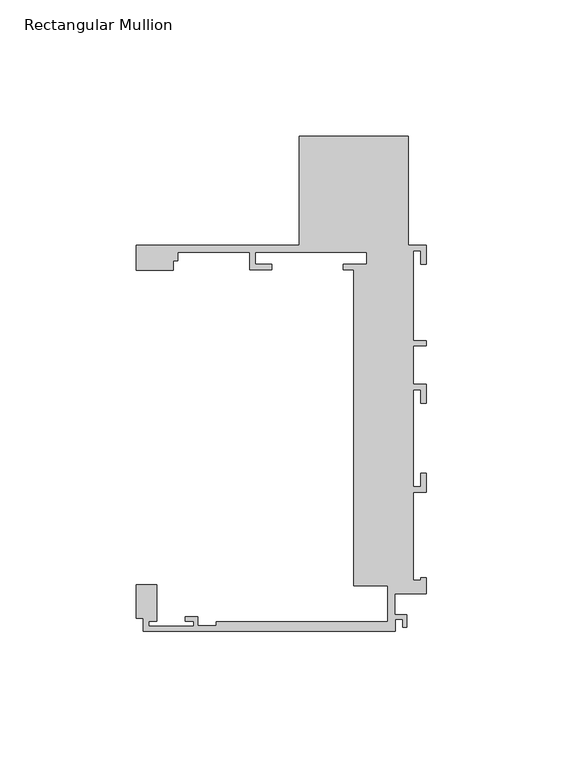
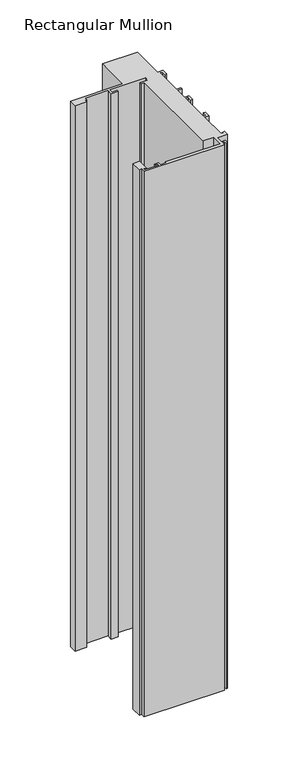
"""IFC4 building model written with IfcOpenShell, lengths in millimetres: member geometry, Rectangular Mullion : Danpal_K12_Middle-Mullion_B2."""

import ifcopenshell
import ifcopenshell.guid

model = None  # the IFC model being written
_history = None  # IfcOwnerHistory: only IFC2X3 demands one
_inside = {}  # id of a spatial element -> (the spatial element, [elements in it])
_under = {}  # id of a project, library or spatial element -> (it, [spatial elements below it])
_declared = {}  # id of a project -> (the project, [libraries it declares])
_typed = {}  # id of a type object -> (the type object, [elements of that type])
_made_of = {}  # id of a material, layer set ... -> (it, [elements and type objects made of it])


def new_model(schema):
    """Start an empty IFC model of exactly this schema.

    Asked for "IFC4X3", IfcOpenShell would pick the latest addendum, in which some entities
    have other attributes; the version numbers below select the first issue.
    IFC2X3 requires an IfcOwnerHistory on every rooted entity: one is made here for all.
    """
    global model, _history
    if schema == "IFC4X3":
        model = ifcopenshell.file(schema_version=(4, 3, 0, 0))
    else:
        model = ifcopenshell.file(schema=schema)
    _inside.clear()
    _under.clear()
    _declared.clear()
    _typed.clear()
    _made_of.clear()
    _history = None
    if model.schema == "IFC2X3":
        org = make("IfcOrganization", Name="unknown")
        user = make(
            "IfcPersonAndOrganization",
            ThePerson=make("IfcPerson", FamilyName="unknown"),
            TheOrganization=org,
        )
        app = make(
            "IfcApplication",
            ApplicationDeveloper=org,
            Version="unknown",
            ApplicationFullName="unknown",
            ApplicationIdentifier="unknown",
        )
        _history = make(
            "IfcOwnerHistory",
            OwningUser=user,
            OwningApplication=app,
            ChangeAction="ADDED",
            CreationDate=0,
        )
    return model


def make(cls, **values):
    """One entity of the class cls with the attributes given. An attribute that is None is left unset."""
    return model.create_entity(
        cls, **{name: value for name, value in values.items() if value is not None}
    )


def rooted(cls, **values):
    """An entity with a GlobalId (a new one), such as an element, a storey or a relation."""
    return make(cls, GlobalId=ifcopenshell.guid.new(), OwnerHistory=_history, **values)


def si_unit(unit_type, name, prefix=None):
    """IfcSIUnit, for example si_unit("LENGTHUNIT", "METRE", prefix="MILLI")."""
    return make("IfcSIUnit", UnitType=unit_type, Prefix=prefix, Name=name)


def assignment(units):
    """IfcUnitAssignment: the units of a project."""
    return None if units is None else make("IfcUnitAssignment", Units=units)


def point(xyz):
    """IfcCartesianPoint."""
    return None if xyz is None else make("IfcCartesianPoint", Coordinates=xyz)


def direction(xyz):
    """IfcDirection."""
    return None if xyz is None else make("IfcDirection", DirectionRatios=xyz)


def frame(location, z_axis=None, x_axis=None):
    """IfcAxis2Placement3D, a coordinate frame: its origin and axes. An axis left out is left unset."""
    return make(
        "IfcAxis2Placement3D",
        Location=point(location),
        Axis=direction(z_axis),
        RefDirection=direction(x_axis),
    )


def origin():
    """The frame at (0, 0, 0) with its axes left unset."""
    return frame((0.0, 0.0, 0.0))


def place(relative_to, where):
    """IfcLocalPlacement: puts the frame where relative to a parent placement (None: the world)."""
    return make(
        "IfcLocalPlacement", PlacementRelTo=relative_to, RelativePlacement=where
    )


def context(
    kind, dimensions, precision=None, world=None, true_north=None, identifier=None
):
    """IfcGeometricRepresentationContext, for example the 3D "Model" context."""
    return make(
        "IfcGeometricRepresentationContext",
        ContextIdentifier=identifier,
        ContextType=kind,
        CoordinateSpaceDimension=dimensions,
        Precision=precision,
        WorldCoordinateSystem=world,
        TrueNorth=true_north,
    )


def project(units=None, contexts=None):
    """IfcProject with its units and contexts."""
    return rooted(
        "IfcProject",
        Name="project",
        RepresentationContexts=contexts,
        UnitsInContext=assignment(units),
    )


def spatial(cls, under=None, at=None, **own):
    """A site, building, storey or space (cls), placed at a placement, below another one or the project."""
    s = rooted(cls, ObjectPlacement=at, **own)
    if under is not None:
        _under.setdefault(under.id(), (under, []))[1].append(s)
    return s


def polyline(points):
    """IfcPolyline through the points."""
    return make("IfcPolyline", Points=[point(p) for p in points])


def outline(outer, holes=None, kind="AREA"):
    """IfcArbitraryClosedProfileDef: a profile drawn as a closed curve; with holes, ...WithVoids."""
    if holes is None:
        return make("IfcArbitraryClosedProfileDef", ProfileType=kind, OuterCurve=outer)
    return make(
        "IfcArbitraryProfileDefWithVoids",
        ProfileType=kind,
        OuterCurve=outer,
        InnerCurves=holes,
    )


def extrude(swept, where, along, depth):
    """IfcExtrudedAreaSolid: the profile swept, set in the frame where, extruded along a direction by depth."""
    return make(
        "IfcExtrudedAreaSolid",
        SweptArea=swept,
        Position=where,
        ExtrudedDirection=direction(along),
        Depth=depth,
    )


def shape(context_of_items, identifier, shape_type, items):
    """IfcShapeRepresentation: the items that make up one representation, for example the "Body"."""
    return make(
        "IfcShapeRepresentation",
        ContextOfItems=context_of_items,
        RepresentationIdentifier=identifier,
        RepresentationType=shape_type,
        Items=items,
    )


def source(mapping_origin, context_of_items, identifier, shape_type, items):
    """IfcRepresentationMap: a shape defined once, which mapped items show again and again."""
    return make(
        "IfcRepresentationMap",
        MappingOrigin=mapping_origin,
        MappedRepresentation=shape(context_of_items, identifier, shape_type, items),
    )


def transform(
    local_origin,
    x_axis=None,
    y_axis=None,
    z_axis=None,
    scale=None,
    scale2=None,
    scale3=None,
    uniform=True,
):
    """IfcCartesianTransformationOperator3D, or its non-uniform kind. x_axis, y_axis, z_axis: its Axis1, 2, 3."""
    if uniform:
        return make(
            "IfcCartesianTransformationOperator3D",
            Axis1=direction(x_axis),
            Axis2=direction(y_axis),
            LocalOrigin=point(local_origin),
            Scale=scale,
            Axis3=direction(z_axis),
        )
    return make(
        "IfcCartesianTransformationOperator3DnonUniform",
        Axis1=direction(x_axis),
        Axis2=direction(y_axis),
        LocalOrigin=point(local_origin),
        Scale=scale,
        Axis3=direction(z_axis),
        Scale2=scale2,
        Scale3=scale3,
    )


def mapped(mapping_source, mapping_target):
    """IfcMappedItem: shows the shape of a source again, moved by a transform."""
    return make(
        "IfcMappedItem", MappingSource=mapping_source, MappingTarget=mapping_target
    )


def made_of(thing, what):
    """Note that an element or type object is made of a material, layer set ...; save() writes the relation."""
    if what is not None:
        _made_of.setdefault(what.id(), (what, []))[1].append(thing)
    return thing


def element(
    cls,
    number,
    at=None,
    inside=None,
    cuts=None,
    type_object=None,
    material=None,
    context=None,
    identifier="Body",
    shape_type=None,
    held_by="IfcProductDefinitionShape",
    body=None,
    shapes=None,
    **own,
):
    """One element of the class cls, such as IfcWall. Its Tag is "e" and its number.

    at: its placement. inside: the storey or other place that contains it. cuts: it is an
    opening in that element (IfcRelVoidsElement). A single representation is given by context,
    identifier, shape_type and body (its items); several are given by shapes. held_by: the class
    of the entity that holds the representations. save() writes the other relations.
    """
    e = rooted(cls, Tag="e%d" % number, ObjectPlacement=at, **own)
    if body is not None:
        shapes = [shape(context, identifier, shape_type, body)]
    if shapes is not None:
        e.Representation = make(held_by, Representations=shapes)
    if inside is not None:
        _inside.setdefault(inside.id(), (inside, []))[1].append(e)
    if cuts is not None:
        rooted(
            "IfcRelVoidsElement", RelatingBuildingElement=cuts, RelatedOpeningElement=e
        )
    if type_object is not None:
        _typed.setdefault(type_object.id(), (type_object, []))[1].append(e)
    return made_of(e, material)


def aggregate(whole, parts):
    """IfcRelAggregates: a whole, such as a stair, and the parts it consists of."""
    return rooted("IfcRelAggregates", RelatingObject=whole, RelatedObjects=parts)


def save(model, path):
    """Write the relations noted so far, then the file.

    IfcRelAggregates (storeys below a building ...), IfcRelContainedInSpatialStructure (elements
    in a storey), IfcRelDefinesByType, IfcRelAssociatesMaterial and IfcRelDeclares: one each for
    every whole, place, type object, material and project.
    """
    for whole, parts in _under.values():
        aggregate(whole, parts)
    for where, things in _inside.values():
        rooted(
            "IfcRelContainedInSpatialStructure",
            RelatedElements=things,
            RelatingStructure=where,
        )
    for kind, things in _typed.values():
        rooted("IfcRelDefinesByType", RelatedObjects=things, RelatingType=kind)
    for what, things in _made_of.values():
        rooted("IfcRelAssociatesMaterial", RelatedObjects=things, RelatingMaterial=what)
    for by, libraries in _declared.values():
        rooted("IfcRelDeclares", RelatingContext=by, RelatedDefinitions=libraries)
    model.write(path)


def rectangular_mullion_542187d4(model_context):
    return source(origin(), model_context, "Body", "SweptSolid", [
        extrude(outline(polyline([(24.173135, 117.8676658), (20.1940961, 117.8676658), (20.1940961, 119.8676658), (28.9590961, 119.8676658), (28.9590961, 124.2676658), (-11.9409313, 124.2676658), (-11.9409313, 119.8676658), (-5.9409313, 119.8676658), (-5.9409313, 117.8676658), (-13.9409313, 117.8676658), (-13.9409313, 124.2676658), (-40.4959313, 124.2676658), (-40.4959313, 121.0676175), (-42.0287205, 121.0676175), (-42.0287205, 117.6986749), (-55.6176464, 117.6986749), (-55.6176464, 126.7676657), (4.1940962, 126.7676657), (4.1940962, 166.7676657), (44.1940962, 166.7676657), (44.1940962, 126.7676657), (50.7940962, 126.7676657), (50.7940962, 119.7676657), (48.7940962, 119.7676657), (48.7940962, 124.7676657), (45.9940962, 124.7676657), (45.9940962, 91.8676485), (50.7940962, 91.8676485), (50.7940962, 89.8676485), (45.9940962, 89.8676485), (45.9940962, 75.867683), (50.7940962, 75.867683), (50.7940962, 68.8676657), (48.7940962, 68.8676657), (48.7940962, 73.8676657), (45.9940962, 73.8676657), (45.9940962, 38.2443486), (48.7940962, 38.2443486), (48.7940962, 43.2443486), (50.7940962, 43.2443486), (50.7940962, 36.2443486), (45.9940962, 36.2443486), (45.9940962, 3.9448486), (48.7940962, 3.9448486), (48.7940962, 4.9448486), (50.7940962, 4.9448486), (50.7940962, -1.0551514), (39.1885087, -1.0551514), (39.1885087, -8.8006425), (43.6422367, -8.8006425), (43.6422367, -13.3051514), (42.1422367, -13.3051514), (42.1422367, -10.3006425), (39.3921425, -10.3006425), (39.3921425, -14.8051514), (-53.1059014, -14.8051514), (-53.1059014, -10.065304), (-55.6176464, -10.065304), (-55.6176464, 2.316674), (-48.1059014, 2.316674), (-48.1059014, -11.0051513), (-51.1059014, -11.0051513), (-51.1059014, -13.0051512), (-34.6059015, -13.0051512), (-34.6059015, -11.0051513), (-37.6059015, -11.0051513), (-37.6059015, -9.5051512), (-33.1059015, -9.5051512), (-33.1059015, -12.8051513), (-26.3590216, -12.8051513), (-26.3590216, -11.3051512), (36.6885087, -11.3051512), (36.6885087, 1.9446289), (24.173135, 1.9446289), (24.173135, 117.8676658)])), frame((0.0, 0.0, -660.6176464), z_axis=(0.0, 0.0, 1.0), x_axis=(1.0, 0.0, 0.0)), (0.0, 0.0, 1.0), 660.6176464),
    ])


if __name__ == "__main__":
    model = new_model("IFC4")
    model_context = context("Model", 3, world=origin())
    ifc_project = project(units=[si_unit("LENGTHUNIT", "METRE", prefix="MILLI")], contexts=[model_context])
    site = spatial("IfcSite", under=ifc_project)
    building = spatial("IfcBuilding", under=site)
    placement = place(None, origin())
    rectangular_mullion_shape = rectangular_mullion_542187d4(model_context)
    element("IfcMember", 1, ObjectType="Rectangular Mullion : Danpal_K12_Middle-Mullion_B2", at=placement, inside=building, context=model_context, shape_type="MappedRepresentation", body=[
        mapped(rectangular_mullion_shape, transform((0.0, 0.0, 0.0), x_axis=(1.0, 0.0, 0.0), y_axis=(0.0, 1.0, 0.0), z_axis=(0.0, 0.0, 1.0))),
    ])
    save(model, "model.ifc")
